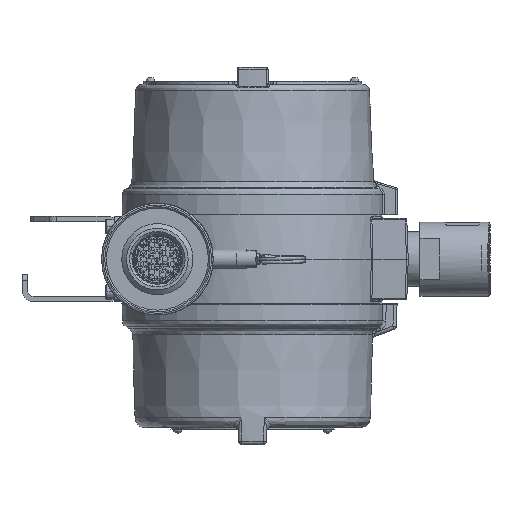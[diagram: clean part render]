
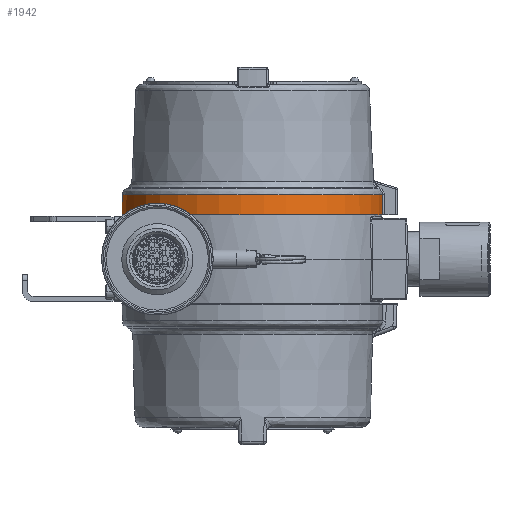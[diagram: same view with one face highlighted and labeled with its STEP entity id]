
A CAD part, front view. The second image highlights one B-rep face of the part: STEP entity #1942.
In plain terms, the highlighted conical face has half-angle 1.5 degrees and reference radius 61.119 mm.
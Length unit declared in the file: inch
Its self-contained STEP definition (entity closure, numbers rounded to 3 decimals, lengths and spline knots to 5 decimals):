
#100 = VERTEX_POINT ( 'NONE', #38246 ) ;
#477 = FACE_OUTER_BOUND ( 'NONE', #42033, .T. ) ;
#981 = DIRECTION ( 'NONE',  ( 0., 1., 0. ) ) ;
#1544 = CARTESIAN_POINT ( 'NONE',  ( 2.38668, -0.21594, 1.1875 ) ) ;
#1942 = ADVANCED_FACE ( 'NONE', ( #477 ), #22073, .F. ) ;
#3419 = CARTESIAN_POINT ( 'NONE',  ( 0., 0., 0.8125 ) ) ;
#5363 = CARTESIAN_POINT ( 'NONE',  ( 2.38997, 0.21594, 1.0625 ) ) ;
#7541 = CARTESIAN_POINT ( 'NONE',  ( 2.39654, -0.21595, 0.8125 ) ) ;
#11251 = CARTESIAN_POINT ( 'NONE',  ( 0., 0., 1.1875 ) ) ;
#14153 = EDGE_CURVE ( 'NONE', #100, #44521, #39737, .T. ) ;
#14655 = B_SPLINE_CURVE_WITH_KNOTS ( 'NONE', 3,
 ( #7541, #22655, #26440, #29963 ),
 .UNSPECIFIED., .F., .F.,
 ( 4, 4 ),
 ( 0., 1. ),
 .UNSPECIFIED. ) ;
#16711 = CARTESIAN_POINT ( 'NONE',  ( 2.39325, 0.21594, 0.9375 ) ) ;
#17006 = AXIS2_PLACEMENT_3D ( 'NONE', #3419, #18800, #49506 ) ;
#18800 = DIRECTION ( 'NONE',  ( 0., 0., 1. ) ) ;
#20592 = EDGE_CURVE ( 'NONE', #44521, #24412, #32285, .T. ) ;
#22073 = CONICAL_SURFACE ( 'NONE', #43776, 2.40625, 0.026 ) ;
#22655 = CARTESIAN_POINT ( 'NONE',  ( 2.39325, -0.21594, 0.9375 ) ) ;
#23060 = ORIENTED_EDGE ( 'NONE', *, *, #27208, .T. ) ;
#24412 = VERTEX_POINT ( 'NONE', #30166 ) ;
#26440 = CARTESIAN_POINT ( 'NONE',  ( 2.38997, -0.21594, 1.0625 ) ) ;
#27208 = EDGE_CURVE ( 'NONE', #100, #44832, #42347, .T. ) ;
#29963 = CARTESIAN_POINT ( 'NONE',  ( 2.38668, -0.21594, 1.1875 ) ) ;
#30166 = CARTESIAN_POINT ( 'NONE',  ( 2.39654, -0.21595, 0.8125 ) ) ;
#31812 = CARTESIAN_POINT ( 'NONE',  ( 2.38668, 0.21594, 1.1875 ) ) ;
#32285 = CIRCLE ( 'NONE', #17006, 2.40625 ) ;
#32487 = ORIENTED_EDGE ( 'NONE', *, *, #34453, .F. ) ;
#32950 = ORIENTED_EDGE ( 'NONE', *, *, #14153, .F. ) ;
#34356 = AXIS2_PLACEMENT_3D ( 'NONE', #11251, #41719, #49263 ) ;
#34453 = EDGE_CURVE ( 'NONE', #24412, #44832, #14655, .T. ) ;
#35518 = DIRECTION ( 'NONE',  ( 0., 0., -1. ) ) ;
#38050 = CARTESIAN_POINT ( 'NONE',  ( 2.39654, 0.21595, 0.8125 ) ) ;
#38246 = CARTESIAN_POINT ( 'NONE',  ( 2.38668, 0.21594, 1.1875 ) ) ;
#38545 = CARTESIAN_POINT ( 'NONE',  ( 0., 0., 0.8125 ) ) ;
#38716 = ORIENTED_EDGE ( 'NONE', *, *, #20592, .F. ) ;
#39737 = B_SPLINE_CURVE_WITH_KNOTS ( 'NONE', 3,
 ( #31812, #5363, #16711, #43643 ),
 .UNSPECIFIED., .F., .F.,
 ( 4, 4 ),
 ( 0., 1. ),
 .UNSPECIFIED. ) ;
#41719 = DIRECTION ( 'NONE',  ( 0., 0., 1. ) ) ;
#42033 = EDGE_LOOP ( 'NONE', ( #38716, #32950, #23060, #32487 ) ) ;
#42347 = CIRCLE ( 'NONE', #34356, 2.39643 ) ;
#43643 = CARTESIAN_POINT ( 'NONE',  ( 2.39654, 0.21595, 0.8125 ) ) ;
#43776 = AXIS2_PLACEMENT_3D ( 'NONE', #38545, #35518, #981 ) ;
#44521 = VERTEX_POINT ( 'NONE', #38050 ) ;
#44832 = VERTEX_POINT ( 'NONE', #1544 ) ;
#49263 = DIRECTION ( 'NONE',  ( 0., -1., 0. ) ) ;
#49506 = DIRECTION ( 'NONE',  ( 0., 1., 0. ) ) ;
